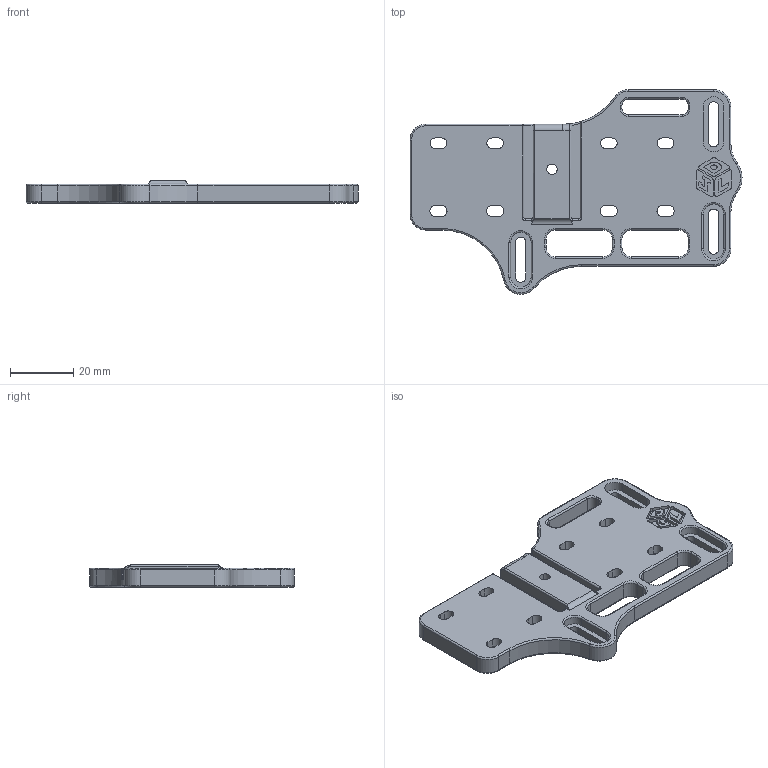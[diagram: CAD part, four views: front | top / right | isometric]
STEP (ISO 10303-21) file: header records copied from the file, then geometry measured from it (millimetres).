
FILE_DESCRIPTION(('CATIA V5 STEP Exchange'),'2;1');
FILE_NAME('E:\Dropbox\3D Printer Fan Duct Designs\1.) Artillery Sidewinder X1\3D Models\5015 Double Ducts\HEMERA MATRIX\Hemera ALL Step Files\Mounting Bracket.stp','2022-01-08T18:48:45+00:00',('none'),('none'),'CATIA Version 5 Release 20 SP 1 (IN-10)','CATIA V5 STEP AP214','none');
FILE_SCHEMA(('AUTOMOTIVE_DESIGN { 1 0 10303 214 1 1 1 1 }'));
Length unit declared in the file: millimetre
Products named in the file (1): ADATTATORE_Z_DOPPIA_5015_HEMERA_MATRIX
Bounding box: 105.2 x 64.92 x 7 mm (x, y, z)
Volume: 23454.8 mm3; surface area: 13083.7 mm2
Topology: 1 solids, 1 shells, 417 faces, 1036 edges, 638 vertices
Faces by surface type: plane 225, cylinder 124, torus 55, extrusion 10, sphere 2, bspline 1
Entity records: 11949 total; most frequent: CARTESIAN_POINT 2428, ORIENTED_EDGE 2068, DIRECTION 1676, EDGE_CURVE 1034, AXIS2_PLACEMENT_3D 664, VECTOR 649, LINE 639, VERTEX_POINT 638
